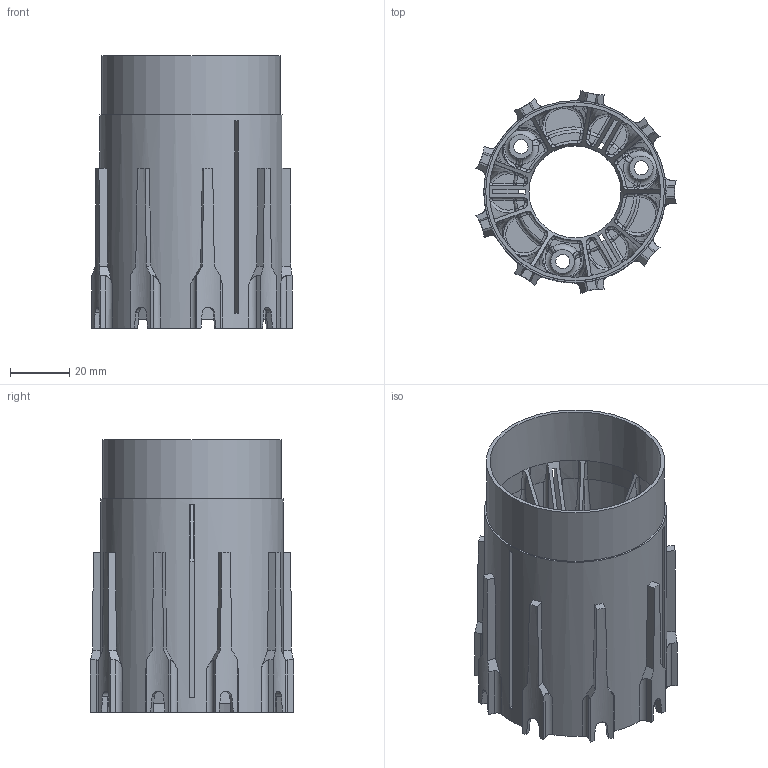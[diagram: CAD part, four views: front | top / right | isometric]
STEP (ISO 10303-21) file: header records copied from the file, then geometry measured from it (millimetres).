
FILE_DESCRIPTION(/* description */ (''),/* implementation_level */ '2;1');
FILE_NAME(/* name */ 'Hecksektion.stp',/* time_stamp */ '2026-03-30T18:56:29+02:00',/* author */ ('rs22sud'),/* organization */ (''),/* preprocessor_version */ 'ST-DEVELOPER v20.1',/* originating_system */ 'Autodesk Inventor 2026',/* authorisation */ '');
FILE_SCHEMA (('AUTOMOTIVE_DESIGN { 1 0 10303 214 3 1 1 }'));
Length unit declared in the file: millimetre
Products named in the file (1): Delta_2_60mm
Bounding box: 67.6 x 68.64 x 92 mm (x, y, z)
Volume: 56053 mm3; surface area: 69138.1 mm2
Topology: 1 solids, 1 shells, 610 faces, 1633 edges, 1007 vertices
Faces by surface type: plane 190, cylinder 176, bspline 168, torus 48, cone 22, sphere 6
Full cylindrical faces by diameter (mm): 4.8 x3, 8 x3, 31.1 x1, 38 x1, 57.9 x1, 60.3 x1, 61.5 x1
Entity records: 26537 total; most frequent: CARTESIAN_POINT 12361, ORIENTED_EDGE 3242, DIRECTION 2618, EDGE_CURVE 1621, AXIS2_PLACEMENT_3D 1053, VERTEX_POINT 1007, EDGE_LOOP 624, FACE_OUTER_BOUND 610
